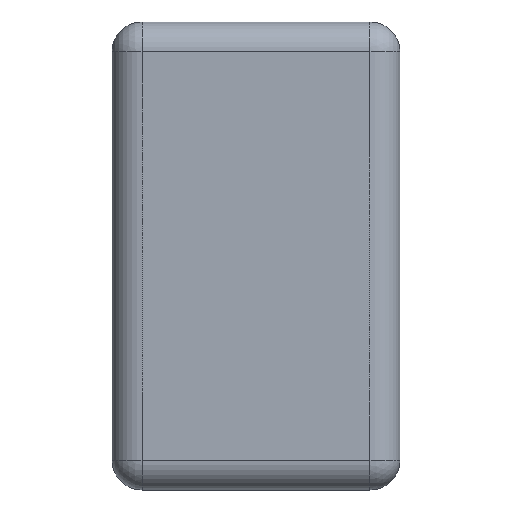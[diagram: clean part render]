
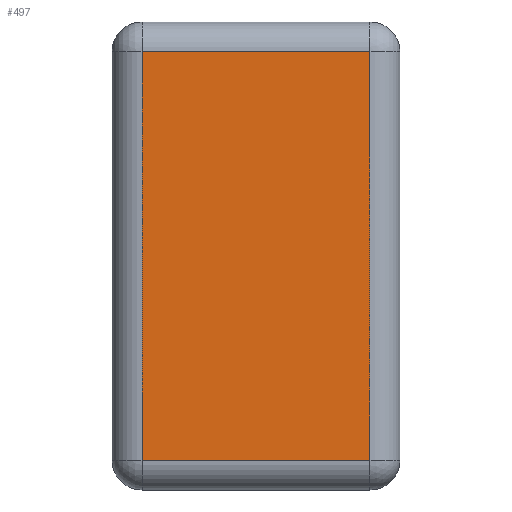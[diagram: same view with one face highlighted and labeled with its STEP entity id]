
A CAD part, left-side view. The second image highlights one B-rep face of the part: STEP entity #497.
In plain terms, the highlighted planar face has unit normal (-1, 0, 0).
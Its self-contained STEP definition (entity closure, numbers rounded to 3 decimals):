
#497=ADVANCED_FACE('NONE',(#1016),#1017,.F.);
#1016=FACE_OUTER_BOUND('',#1569,.T.);
#1017=PLANE('',#1570);
#1569=EDGE_LOOP('',(#2861,#2862,#2863,#2864));
#1570=AXIS2_PLACEMENT_3D('',#2865,#2866,#2867);
#2861=ORIENTED_EDGE('',*,*,#3660,.T.);
#2862=ORIENTED_EDGE('',*,*,#3661,.T.);
#2863=ORIENTED_EDGE('',*,*,#3662,.T.);
#2864=ORIENTED_EDGE('',*,*,#3663,.T.);
#2865=CARTESIAN_POINT('',(-99.408,10.644,42.331));
#2866=DIRECTION('',(1.0,0.,0.));
#2867=DIRECTION('',(0.,0.,-1.0));
#3660=EDGE_CURVE('NONE',#4446,#4447,#4448,.T.);
#3661=EDGE_CURVE('NONE',#4447,#4449,#4450,.T.);
#3662=EDGE_CURVE('NONE',#4449,#4451,#4452,.T.);
#3663=EDGE_CURVE('NONE',#4451,#4446,#4453,.T.);
#4446=VERTEX_POINT('NONE',#5547);
#4447=VERTEX_POINT('NONE',#5548);
#4448=LINE('',#5549,#5550);
#4449=VERTEX_POINT('NONE',#5551);
#4450=LINE('',#5552,#5553);
#4451=VERTEX_POINT('NONE',#5554);
#4452=LINE('',#5555,#5556);
#4453=LINE('',#5557,#5558);
#5547=CARTESIAN_POINT('',(-99.408,10.769,42.456));
#5548=CARTESIAN_POINT('',(-99.408,10.769,44.156));
#5549=CARTESIAN_POINT('',(-99.408,10.769,42.331));
#5550=VECTOR('',#6225,1000.0);
#5551=CARTESIAN_POINT('',(-99.408,11.719,44.156));
#5552=CARTESIAN_POINT('',(-99.408,10.644,44.156));
#5553=VECTOR('',#6226,1000.0);
#5554=CARTESIAN_POINT('',(-99.408,11.719,42.456));
#5555=CARTESIAN_POINT('',(-99.408,11.719,42.331));
#5556=VECTOR('',#6227,1000.0);
#5557=CARTESIAN_POINT('',(-99.408,10.644,42.456));
#5558=VECTOR('',#6228,1000.0);
#6225=DIRECTION('',(0.,0.,1.0));
#6226=DIRECTION('',(0.,1.0,0.));
#6227=DIRECTION('',(0.,0.,-1.0));
#6228=DIRECTION('',(0.,-1.0,0.));
